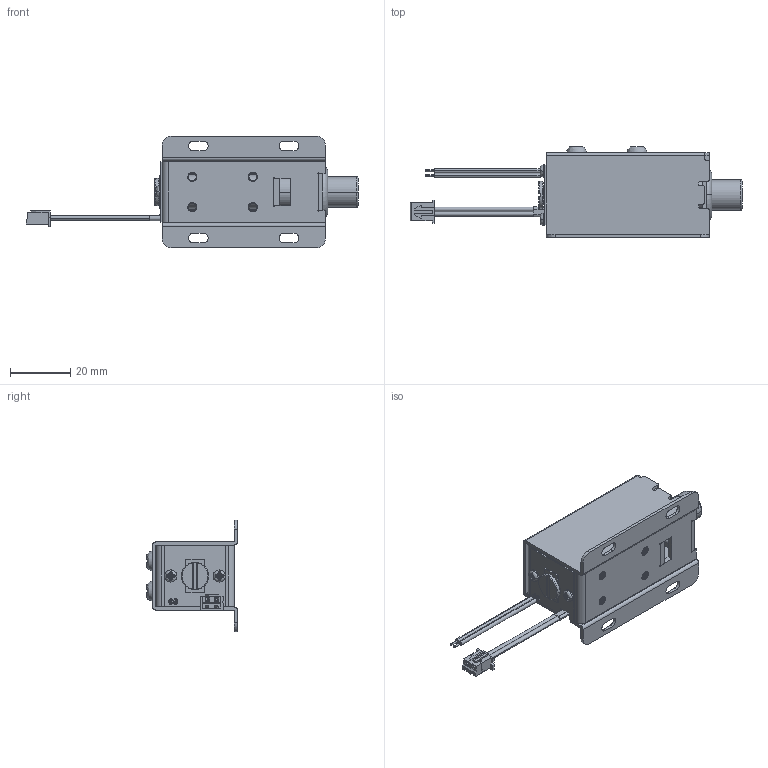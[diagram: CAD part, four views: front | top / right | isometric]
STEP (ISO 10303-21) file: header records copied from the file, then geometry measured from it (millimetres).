
FILE_DESCRIPTION((''),'2;1');
FILE_NAME('LY01G_ASM','2025-04-17T17:02:19',('PRIME'),(''),'CREO PARAMETRIC BY PTC INC, 2023073','CREO PARAMETRIC BY PTC INC, 2023073','');
FILE_SCHEMA(('CONFIG_CONTROL_DESIGN','SHAPE_APPEARANCE_LAYERS_GROUPS'));
Length unit declared in the file: millimetre
Products named in the file (14): A-LY01J00; B-LY01BG000; C-LY01B00; D-LY01B00; E-LY01B00; LY03J-000; G-LY01B00; _LY01B00; 0002; F-LY01G00; LY03J-0001; M25-000; LY03J-0003; LY01G_ASM
Assembly tree (15 placements, depth 2):
  LY01G_ASM
    A-LY01J00
    B-LY01BG000
    C-LY01B00
    D-LY01B00
    E-LY01B00
    LY03J-000
    G-LY01B00
    _LY01B00
    0002  x2
    F-LY01G00
    LY03J-0001
    M25-000  x2
    LY03J-0003
Bounding box: 109.8 x 30 x 37 mm (x, y, z)
Volume: 16495.5 mm3; surface area: 26616.1 mm2
Topology: 18 solids, 18 shells, 900 faces, 2414 edges, 1573 vertices
Faces by surface type: plane 370, cylinder 302, bspline 150, torus 54, cone 12, sphere 12
Entity records: 45856 total; most frequent: CARTESIAN_POINT 21526, ORIENTED_EDGE 4184, DIRECTION 3611, EDGE_CURVE 2092, VERTEX_POINT 1367, AXIS2_PLACEMENT_3D 1272, VECTOR 1067, LINE 1067
